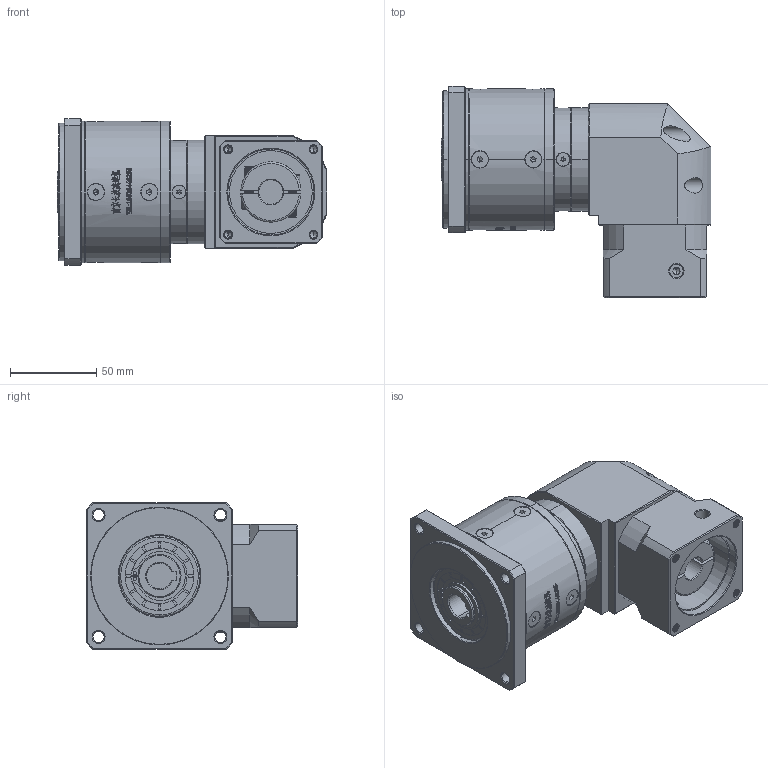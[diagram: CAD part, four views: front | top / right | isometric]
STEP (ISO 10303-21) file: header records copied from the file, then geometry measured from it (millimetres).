
FILE_DESCRIPTION (( 'STEP AP214' ), '1' );
FILE_NAME ('ZFR80-K15-L2-14-50-70-M5.step', '2022-05-08T14:58:37', ( '' ), ( 'Microsoft' ), 'SwSTEP 2.0', 'SolidWorks 2016', '' );
FILE_SCHEMA (( 'AUTOMOTIVE_DESIGN' ));
Length unit declared in the file: millimetre
Products named in the file (1): ZFR80-K15-L2-14-50-70-M5
Bounding box: 156.5 x 122.7 x 85 mm (x, y, z)
Volume: 767222 mm3; surface area: 101344.2 mm2
Topology: 17 solids, 18 shells, 3028 faces, 8058 edges, 5186 vertices
Faces by surface type: plane 1594, bspline 610, cylinder 441, cone 375, torus 8
Entity records: 159687 total; most frequent: CARTESIAN_POINT 56277, ORIENTED_EDGE 16028, DIRECTION 12197, EDGE_CURVE 8014, VERTEX_POINT 5186, VECTOR 4945, LINE 4945, AXIS2_PLACEMENT_3D 3626
